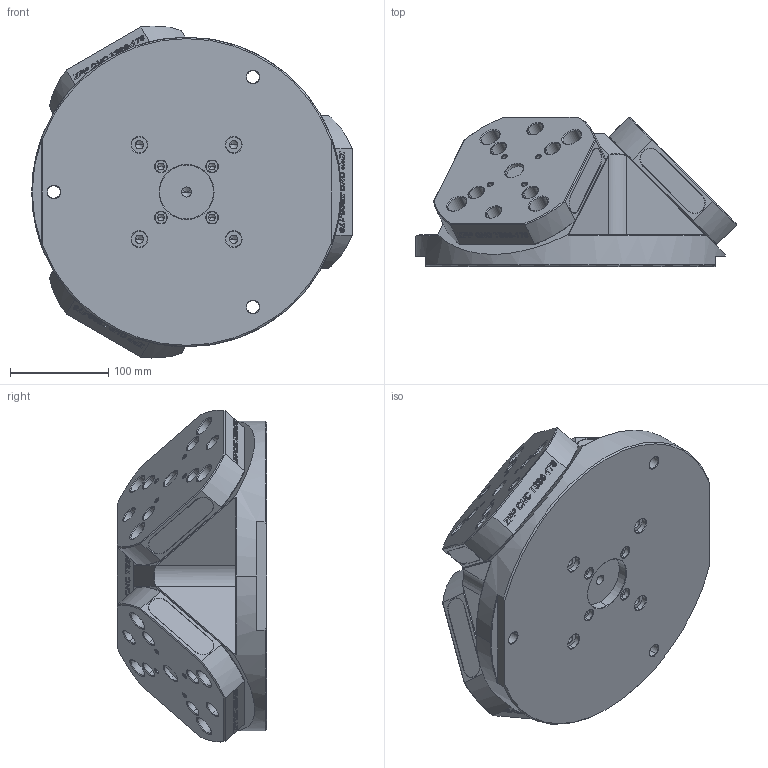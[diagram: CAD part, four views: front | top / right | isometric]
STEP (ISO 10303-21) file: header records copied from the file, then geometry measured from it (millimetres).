
FILE_DESCRIPTION((''),'2;1');
FILE_NAME('TS96-3PY_ASM','2025-05-06T14:45:48',('XF'),(''),'CREO PARAMETRIC BY PTC INC, 2023073','CREO PARAMETRIC BY PTC INC, 2023073','');
FILE_SCHEMA(('CONFIG_CONTROL_DESIGN'));
Length unit declared in the file: millimetre
Products named in the file (21): TS96-3PY_44_1; TS96-3PY_44_2; TS96-3PY_44_3; TS96-3PY_44_4; TS96-3PY_44_5; TS96-3PY_44_6; TS96-3PY_44_7; TS96-3PY_44_8; TS96-3PY_44_9; TS96-3PY_44_10; TS96-3PY_44_11; TS96-3PY_44_12; TS96-3PY_44_13; TS96-3PY_44_14; TS96-3PY_44_15; TS96-3PY_44_16; TS96-3PY_44_17; TS96-3PY_44_ASM; ASM0001_ASM; TS96-178; TS96-3PY_ASM
Assembly tree (22 placements, depth 4):
  TS96-3PY_ASM
    ASM0001_ASM
      TS96-3PY_44_ASM
        TS96-3PY_44_1
        TS96-3PY_44_2
        TS96-3PY_44_3
        TS96-3PY_44_4
        TS96-3PY_44_5
        TS96-3PY_44_6
        TS96-3PY_44_7
        TS96-3PY_44_8
        TS96-3PY_44_9
        TS96-3PY_44_10
        TS96-3PY_44_11
        TS96-3PY_44_12
        TS96-3PY_44_13
        TS96-3PY_44_14
        TS96-3PY_44_15
        TS96-3PY_44_16
        TS96-3PY_44_17
    TS96-178  x3
Bounding box: 326.1 x 151.72 x 337.75 mm (x, y, z)
Volume: 7194061.9 mm3; surface area: 477699.5 mm2
Topology: 20 solids, 32 shells, 2868 faces, 7687 edges, 4998 vertices
Faces by surface type: extrusion 1330, plane 815, cylinder 347, cone 331, torus 36, bspline 9
Entity records: 45665 total; most frequent: CARTESIAN_POINT 13317, ORIENTED_EDGE 7166, DIRECTION 5145, EDGE_CURVE 3591, VERTEX_POINT 2366, VECTOR 2301, B_SPLINE_CURVE_WITH_KNOTS 1888, LINE 1707
